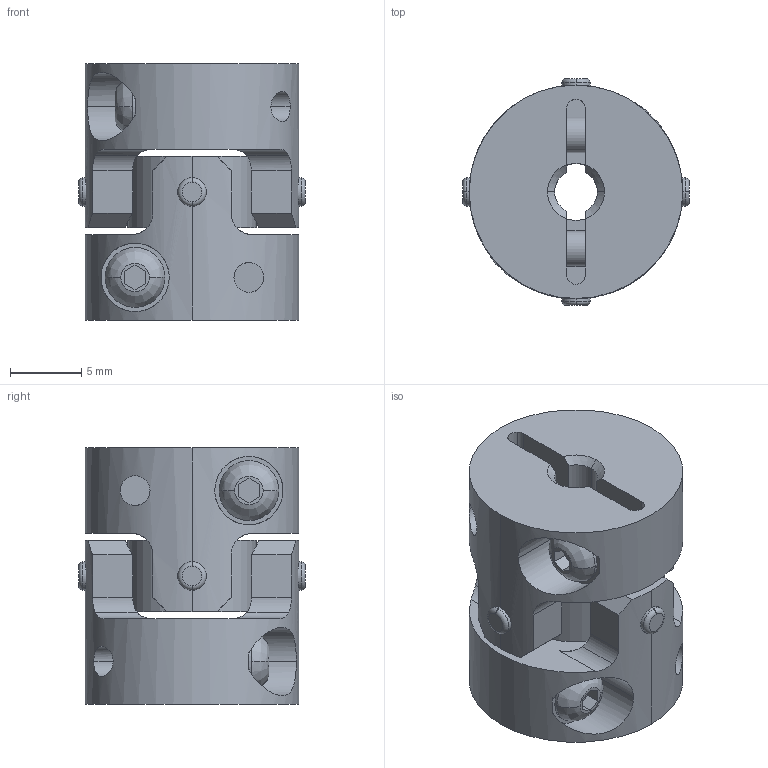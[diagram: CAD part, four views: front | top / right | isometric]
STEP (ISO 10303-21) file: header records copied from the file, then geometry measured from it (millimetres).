
FILE_DESCRIPTION((''),'2;1');
FILE_NAME('UA-15C-3×4.stp','2013-05-16T08:31:47',(''),(''),'AutoCAD STEP 2000i','AutoCAD 2000i',', , ');
FILE_SCHEMA(('CONFIG_CONTROL_DESIGN'));
Length unit declared in the file: millimetre
Products named in the file (6): UA-15C-3×3; 忣兜1; UA-1502-D03-1; BTN-M2.5; UA-1502-D03; UA15-SEN
Assembly tree (6 placements, depth 3):
  UA-15C-3×3
    忣兜1
    UA-1502-D03-1
      BTN-M2.5
    UA-1502-D03
      BTN-M2.5
    UA15-SEN
Bounding box: 15.94 x 15.94 x 18 mm (x, y, z)
Volume: 2336 mm3; surface area: 2373.9 mm2
Topology: 1 solids, 1 shells, 206 faces, 550 edges, 360 vertices
Faces by surface type: cylinder 96, plane 78, cone 16, bspline 8, torus 8
Entity records: 7955 total; most frequent: CARTESIAN_POINT 2659, ORIENTED_EDGE 1100, DIRECTION 1064, EDGE_CURVE 550, AXIS2_PLACEMENT_3D 409, VERTEX_POINT 360, VECTOR 246, LINE 246
